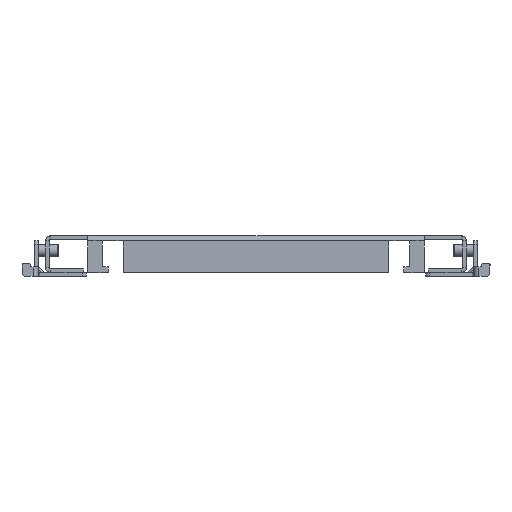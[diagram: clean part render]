
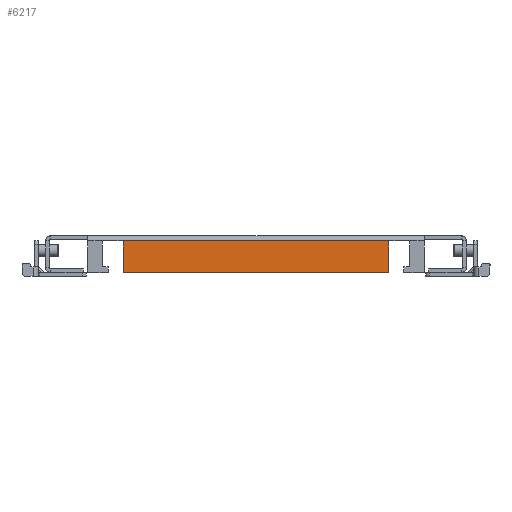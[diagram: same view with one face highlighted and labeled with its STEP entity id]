
A CAD part, front view. The second image highlights one B-rep face of the part: STEP entity #6217.
In plain terms, the highlighted planar face has unit normal (0, -1, 0).
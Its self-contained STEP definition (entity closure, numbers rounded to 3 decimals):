
#36 = ORIENTED_EDGE ( 'NONE', *, *, #1629, .T. ) ;
#163 = ORIENTED_EDGE ( 'NONE', *, *, #8964, .T. ) ;
#301 = CARTESIAN_POINT ( 'NONE',  ( 232.4, 0., -1. ) ) ;
#586 = VECTOR ( 'NONE', #11480, 1000. ) ;
#996 = CARTESIAN_POINT ( 'NONE',  ( 232.4, 0., -22.5 ) ) ;
#1629 = EDGE_CURVE ( 'NONE', #4476, #11684, #8824, .T. ) ;
#1648 = VECTOR ( 'NONE', #9577, 1000. ) ;
#2504 = FACE_OUTER_BOUND ( 'NONE', #11070, .T. ) ;
#2661 = VECTOR ( 'NONE', #9595, 1000. ) ;
#2989 = PLANE ( 'NONE',  #6921 ) ;
#3618 = DIRECTION ( 'NONE',  ( -1., 0., 0. ) ) ;
#3854 = VERTEX_POINT ( 'NONE', #4005 ) ;
#3913 = CARTESIAN_POINT ( 'NONE',  ( 28.5, 0., 0. ) ) ;
#3951 = EDGE_CURVE ( 'NONE', #5660, #3854, #8858, .T. ) ;
#4005 = CARTESIAN_POINT ( 'NONE',  ( 52.6, 0., -22.5 ) ) ;
#4476 = VERTEX_POINT ( 'NONE', #301 ) ;
#4526 = CARTESIAN_POINT ( 'NONE',  ( 28.5, 0., -1. ) ) ;
#4824 = DIRECTION ( 'NONE',  ( 0., -1., 0. ) ) ;
#5402 = LINE ( 'NONE', #10576, #586 ) ;
#5660 = VERTEX_POINT ( 'NONE', #996 ) ;
#6217 = ADVANCED_FACE ( 'NONE', ( #2504 ), #2989, .T. ) ;
#6410 = VECTOR ( 'NONE', #3618, 1000. ) ;
#6875 = ORIENTED_EDGE ( 'NONE', *, *, #3951, .F. ) ;
#6921 = AXIS2_PLACEMENT_3D ( 'NONE', #3913, #4824, #11111 ) ;
#7472 = LINE ( 'NONE', #8682, #2661 ) ;
#7756 = CARTESIAN_POINT ( 'NONE',  ( 28.5, 0., -22.5 ) ) ;
#8682 = CARTESIAN_POINT ( 'NONE',  ( 52.6, 0., -1. ) ) ;
#8824 = LINE ( 'NONE', #4526, #6410 ) ;
#8858 = LINE ( 'NONE', #7756, #1648 ) ;
#8964 = EDGE_CURVE ( 'NONE', #5660, #4476, #5402, .T. ) ;
#9577 = DIRECTION ( 'NONE',  ( -1., 0., 0. ) ) ;
#9595 = DIRECTION ( 'NONE',  ( 0., 0., -1. ) ) ;
#9984 = CARTESIAN_POINT ( 'NONE',  ( 52.6, 0., -1. ) ) ;
#10576 = CARTESIAN_POINT ( 'NONE',  ( 232.4, 0., -1. ) ) ;
#11070 = EDGE_LOOP ( 'NONE', ( #11596, #6875, #163, #36 ) ) ;
#11111 = DIRECTION ( 'NONE',  ( 0., 0., -1. ) ) ;
#11244 = EDGE_CURVE ( 'NONE', #11684, #3854, #7472, .T. ) ;
#11480 = DIRECTION ( 'NONE',  ( 0., 0., 1. ) ) ;
#11596 = ORIENTED_EDGE ( 'NONE', *, *, #11244, .T. ) ;
#11684 = VERTEX_POINT ( 'NONE', #9984 ) ;
